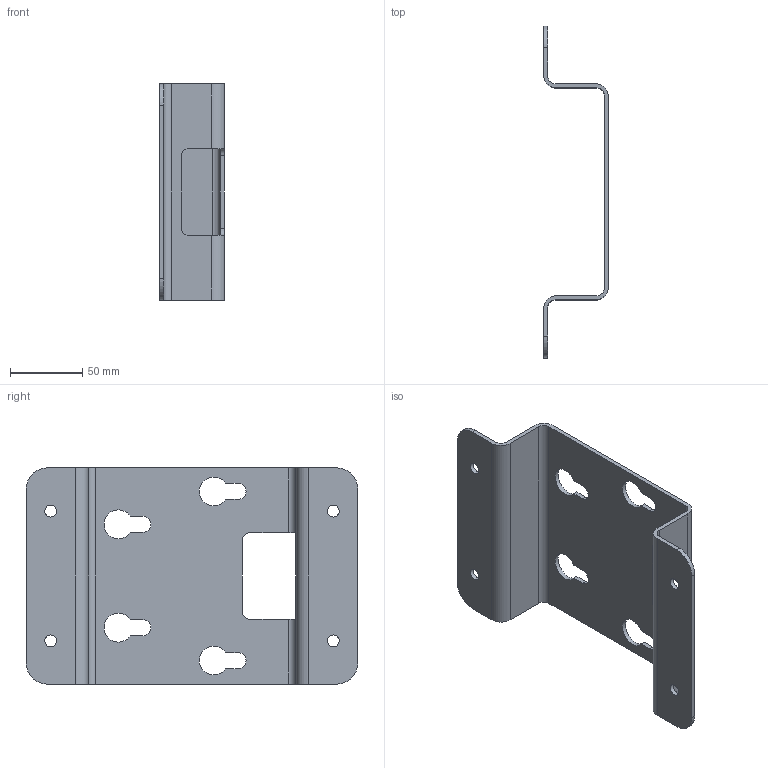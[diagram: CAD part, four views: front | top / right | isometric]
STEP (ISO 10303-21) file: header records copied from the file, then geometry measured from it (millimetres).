
FILE_DESCRIPTION( ( 'Unknown' ), '1' );
FILE_NAME( 'C:/Users/Fabrizio/Desktop/CA.01.01.016.stp', 'Unknown', ( 'Unknown' ), ( 'Unknown' ), 'PSStep 13.0', 'Unknown', ' ' );
FILE_SCHEMA( ( 'AUTOMOTIVE_DESIGN { 1 0 10303 214 1 1 1 1 }' ) );
Length unit declared in the file: millimetre
Products named in the file (2): Assem1; 01.01.016
Bounding box: 45 x 230 x 150 mm (x, y, z)
Volume: 232535.2 mm3; surface area: 166508.8 mm2
Topology: 2 solids, 2 shells, 112 faces, 344 edges, 232 vertices
Faces by surface type: cylinder 60, plane 52
Full cylindrical faces by diameter (mm): 8.2 x8
Entity records: 2406 total; most frequent: DIRECTION 340, CARTESIAN_POINT 334, ORIENTED_EDGE 328, EDGE_CURVE 164, AXIS2_PLACEMENT_3D 118, VERTEX_POINT 112, LINE 104, VECTOR 104
